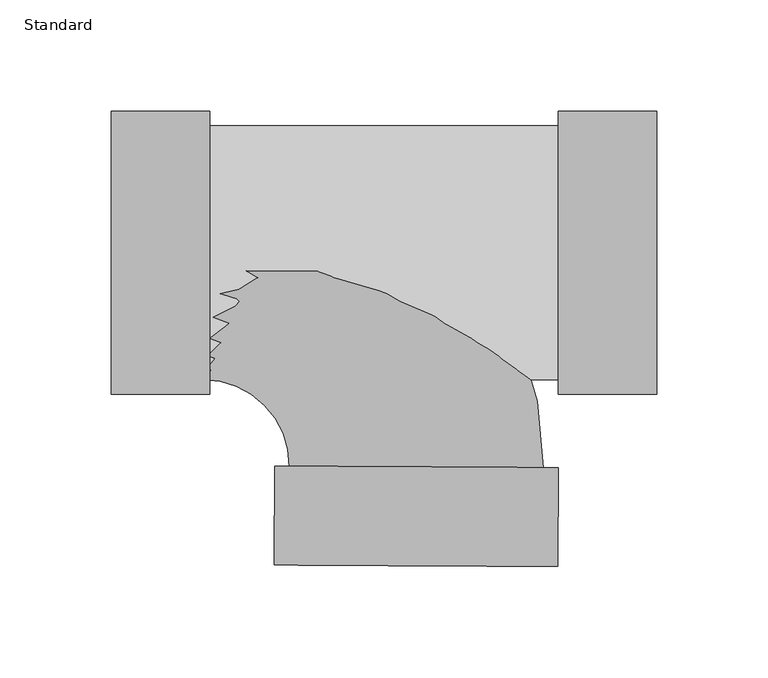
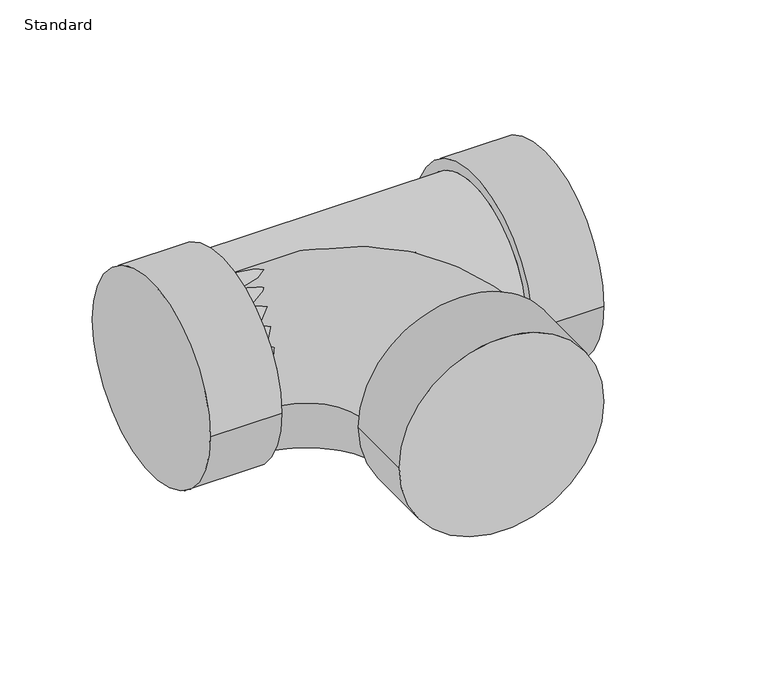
"""IFC4 building model written with IfcOpenShell, lengths in millimetres: pipe fitting geometry, EG-RCAN Té sanitaire de réduction - PVC - Nom. 40 - DWV : Standard."""

from ifc_helpers import new_model, si_unit, point, frame, origin, place, context, project, spatial, circle_curve, ellipse_curve, trimmed, source, transform, mapped, element, save
from ifc_brep_helpers import plane_surface, cylinder_surface, revolved_surface, advanced_brep


def standard_5fcdce4c(model_context):
    return source(origin(), model_context, "Body", "AdvancedBrep", [
        advanced_brep(
        [(63.2411182, -63.754, 0.0), (63.2411182, 63.754, 0.0), (63.2411182, -57.15, 0.0), (63.2411182, 57.15, 0.0), (107.6911182, -63.754, 0.0), (107.6911182, 63.754, 0.0), (-93.4599062, 57.15, 0.0), (-93.4599062, -57.15, 0.0), (-137.9099062, -63.754, 0.0), (-137.9099062, 63.754, 0.0), (-93.4599062, -63.754, 0.0), (-93.4599062, 63.754, 0.0)],
        [
            (0, 1, circle_curve(frame((63.2411182, 0.0, 0.0), z_axis=(-1.0, 0.0, 0.0), x_axis=(0.0, 1.0, 0.0)), 63.754)),
            (1, 0, circle_curve(frame((63.2411182, 0.0, 0.0), z_axis=(-1.0, 0.0, 0.0), x_axis=(0.0, 1.0, 0.0)), 63.754)),
            (2, 3, circle_curve(frame((63.2411182, 0.0, 0.0), z_axis=(1.0, 0.0, 0.0), x_axis=(0.0, 0.0, -1.0)), 57.15)),
            (3, 2, circle_curve(frame((63.2411182, 0.0, 0.0), z_axis=(1.0, 0.0, 0.0), x_axis=(0.0, 0.0, 1.0)), 57.15)),
            (4, 5, circle_curve(frame((107.6911182, 0.0, 0.0), z_axis=(1.0, 0.0, 0.0), x_axis=(0.0, 1.0, 0.0)), 63.754)),
            (5, 4, circle_curve(frame((107.6911182, 0.0, 0.0), z_axis=(1.0, 0.0, 0.0), x_axis=(0.0, 1.0, 0.0)), 63.754)),
            (0, 4),
            (5, 1),
            (6, 3),
            (2, 7),
            (7, 6, circle_curve(frame((-93.4599062, 0.0, 0.0), z_axis=(1.0, 0.0, 0.0), x_axis=(0.0, 0.0, -1.0)), 57.15)),
            (6, 7, circle_curve(frame((-93.4599062, 0.0, 0.0), z_axis=(1.0, 0.0, 0.0), x_axis=(0.0, 0.0, 1.0)), 57.15)),
            (8, 9, circle_curve(frame((-137.9099062, 0.0, 0.0), z_axis=(-1.0, 0.0, 0.0), x_axis=(0.0, 1.0, 0.0)), 63.754)),
            (9, 8, circle_curve(frame((-137.9099062, 0.0, 0.0), z_axis=(-1.0, 0.0, 0.0), x_axis=(0.0, 1.0, 0.0)), 63.754)),
            (10, 11, circle_curve(frame((-93.4599062, 0.0, 0.0), z_axis=(1.0, 0.0, 0.0), x_axis=(0.0, 1.0, 0.0)), 63.754)),
            (11, 10, circle_curve(frame((-93.4599062, 0.0, 0.0), z_axis=(1.0, 0.0, 0.0), x_axis=(0.0, 1.0, 0.0)), 63.754)),
            (8, 10),
            (11, 9),
        ],
        [
            plane_surface(frame((63.2411182, 0.0, 0.0), z_axis=(-1.0, 0.0, 0.0), x_axis=(0.0, 0.0, 1.0))),
            plane_surface(frame((107.6911182, 0.0, 0.0), z_axis=(1.0, 0.0, 0.0), x_axis=(0.0, 0.0, 1.0))),
            cylinder_surface(frame((63.2411182, 0.0, 0.0), z_axis=(-1.0, 0.0, 0.0), x_axis=(0.0, 1.0, 0.0)), 63.754),
            cylinder_surface(frame((-93.4599062, 0.0, 0.0), z_axis=(1.0, 0.0, 0.0), x_axis=(0.0, 0.0, -1.0)), 57.15),
            cylinder_surface(frame((-93.4599062, 0.0, 0.0), z_axis=(1.0, 0.0, 0.0), x_axis=(0.0, 0.0, 1.0)), 57.15),
            plane_surface(frame((-137.9099062, 0.0, 0.0), z_axis=(-1.0, 0.0, 0.0), x_axis=(0.0, 0.0, 1.0))),
            plane_surface(frame((-93.4599062, 0.0, 0.0), z_axis=(1.0, 0.0, 0.0), x_axis=(0.0, 0.0, 1.0))),
            cylinder_surface(frame((-137.9099062, 0.0, 0.0), z_axis=(-1.0, 0.0, 0.0), x_axis=(0.0, 1.0, 0.0)), 63.754),
        ],
        [
            (0, [[1, 2], [3, 4]]),
            (1, [[5, 6]]),
            (2, [[-1, 7, -6, 8]]),
            (2, [[-2, -8, -5, -7]]),
            (3, [[9, -3, 10, 11]]),
            (4, [[-9, 12, -10, -4]]),
            (5, [[13, 14]]),
            (6, [[15, 16], [-11, -12]]),
            (7, [[-13, 17, -16, 18]]),
            (7, [[-14, -18, -15, -17]]),
        ],
    ),
        advanced_brep(
        [(-64.2650815, -96.0075137, 0.0), (63.2411182, -96.6850782, 0.0), (56.6372115, -96.6499852, 0.0), (-57.6611748, -96.0426066, 0.0), (-64.5012843, -140.4568861, 0.0), (63.0049154, -141.1344506, 0.0), (-96.3476562, -57.15, 0.0), (-96.3476562, 57.15, 0.0)],
        [
            (0, 1, circle_curve(frame((-0.5119816, -96.3462959, 0.0), z_axis=(0.00531389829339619, 0.9999858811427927, 0.0), x_axis=(0.9999858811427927, -0.00531389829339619, 0.0)), 63.754)),
            (1, 0, circle_curve(frame((-0.5119816, -96.3462959, 0.0), z_axis=(0.00531389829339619, 0.9999858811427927, 0.0), x_axis=(0.9999858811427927, -0.00531389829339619, 0.0)), 63.754)),
            (2, 3, circle_curve(frame((-0.5119816, -96.3462959, 0.0), z_axis=(-0.005313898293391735, -0.9999858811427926, 0.0), x_axis=(0.9999858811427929, -0.005313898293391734, 0.0)), 57.15)),
            (3, 2, circle_curve(frame((-0.5119816, -96.3462959, 0.0), z_axis=(-0.005313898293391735, -0.9999858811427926, 0.0), x_axis=(0.9999858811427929, -0.005313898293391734, 0.0)), 57.15)),
            (4, 5, circle_curve(frame((-0.7481844, -140.7956683, 0.0), z_axis=(-0.00531389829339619, -0.9999858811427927, 0.0), x_axis=(0.9999858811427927, -0.00531389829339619, 0.0)), 63.754)),
            (5, 4, circle_curve(frame((-0.7481844, -140.7956683, 0.0), z_axis=(-0.00531389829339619, -0.9999858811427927, 0.0), x_axis=(0.9999858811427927, -0.00531389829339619, 0.0)), 63.754)),
            (0, 4),
            (5, 1),
            (6, 7, circle_curve(frame((-96.3476562, 0.0, 0.0), z_axis=(-1.0000000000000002, 0.0, 0.0), x_axis=(0.0, 1.0, 0.0)), 57.15)),
            (7, 6, circle_curve(frame((-96.3476562, 0.0, 0.0), z_axis=(-1.0000000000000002, 0.0, 0.0), x_axis=(0.0, 1.0, 0.0)), 57.15)),
            (6, 3, circle_curve(frame((-96.3476562, -95.8370277, 0.0), z_axis=(0.0, 0.0, -1.0), x_axis=(0.0, 1.0, 0.0)), 38.6870277)),
            (2, 7, circle_curve(frame((-96.3476562, -95.8370277, 0.0), z_axis=(0.0, 0.0, 1.0), x_axis=(0.0, 1.0, 0.0)), 152.9870277)),
        ],
        [
            plane_surface(frame((-0.5119816, -96.3462959, 0.0), z_axis=(0.00531389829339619, 0.9999858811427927, 0.0), x_axis=(0.0, 0.0, 1.0))),
            plane_surface(frame((-0.7481844, -140.7956683, 0.0), z_axis=(-0.00531389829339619, -0.9999858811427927, 0.0), x_axis=(0.0, 0.0, 1.0))),
            cylinder_surface(frame((-0.5119816, -96.3462959, 0.0), z_axis=(0.00531389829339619, 0.9999858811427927, 0.0), x_axis=(0.9999858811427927, -0.00531389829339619, 0.0)), 63.754),
            plane_surface(frame((-96.3476562, 0.0, 0.0), z_axis=(-1.0, 0.0, 0.0), x_axis=(0.0, 0.0, 1.0))),
            revolved_surface(trimmed(ellipse_curve(frame((-96.3476562, 0.0, 0.0), z_axis=(-1.0000000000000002, 0.0, 0.0), x_axis=(0.0, 1.0, 0.0)), 57.15, 57.15), [point((-96.3476562, -57.15, 0.0))], [point((-96.3476562, 57.15, 0.0))], True, "CARTESIAN"), (-96.3476562, -95.8370277, 0.0), (0.0, 0.0, -1.0000000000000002)),
            revolved_surface(trimmed(ellipse_curve(frame((-96.3476562, 0.0, 0.0), z_axis=(-1.0000000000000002, 0.0, 0.0), x_axis=(0.0, 1.0, 0.0)), 57.15, 57.15), [point((-96.3476562, 57.15, 0.0))], [point((-96.3476562, -57.15, 0.0))], True, "CARTESIAN"), (-96.3476562, -95.8370277, 0.0), (0.0, 0.0, -1.0000000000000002)),
        ],
        [
            (0, [[1, 2], [3, 4]]),
            (1, [[5, 6]]),
            (2, [[-1, 7, -6, 8]]),
            (2, [[-2, -8, -5, -7]]),
            (3, [[9, 10]]),
            (4, [[-9, 11, -3, 12]]),
            (5, [[-10, -12, -4, -11]]),
        ],
    ),
    ])


if __name__ == "__main__":
    model = new_model("IFC4")
    model_context = context("Model", 3, world=origin())
    ifc_project = project(units=[si_unit("LENGTHUNIT", "METRE", prefix="MILLI")], contexts=[model_context])
    site = spatial("IfcSite", under=ifc_project)
    building = spatial("IfcBuilding", under=site)
    placement = place(None, origin())
    standard_shape = standard_5fcdce4c(model_context)
    element("IfcPipeFitting", 1, ObjectType="EG-RCAN Té sanitaire de réduction - PVC - Nom. 40 - DWV : Standard", at=placement, inside=building, context=model_context, shape_type="MappedRepresentation", body=[
        mapped(standard_shape, transform((0.0, 0.0, 0.0), x_axis=(1.0, 0.0, 0.0), y_axis=(0.0, 1.0, 0.0), z_axis=(0.0, 0.0, 1.0))),
    ])
    save(model, "model.ifc")
